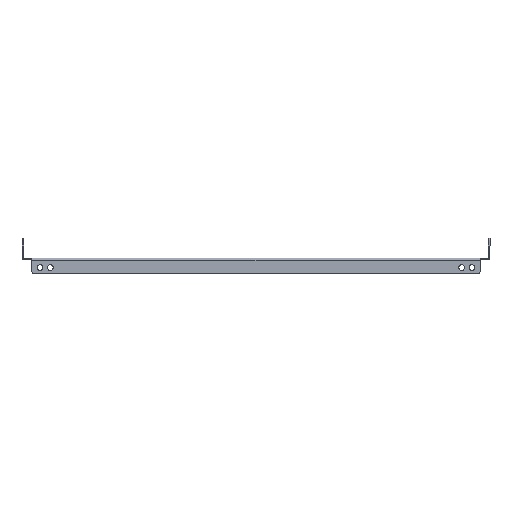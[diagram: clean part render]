
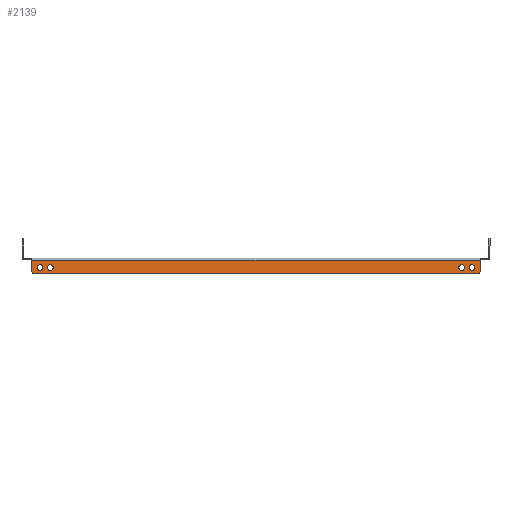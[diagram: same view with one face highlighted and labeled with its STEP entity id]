
A CAD part, left-side view. The second image highlights one B-rep face of the part: STEP entity #2139.
In plain terms, the highlighted planar face has unit normal (-1, 0, 0).
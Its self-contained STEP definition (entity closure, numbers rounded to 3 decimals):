
#9 = ORIENTED_EDGE ( 'NONE', *, *, #570, .F. ) ;
#19 = CARTESIAN_POINT ( 'NONE',  ( -150., -272.5, -17. ) ) ;
#38 = VERTEX_POINT ( 'NONE', #2614 ) ;
#49 = DIRECTION ( 'NONE',  ( -1., 0., 0. ) ) ;
#61 = AXIS2_PLACEMENT_3D ( 'NONE', #1537, #171, #535 ) ;
#106 = EDGE_CURVE ( 'NONE', #1857, #3036, #494, .T. ) ;
#114 = CARTESIAN_POINT ( 'NONE',  ( -150., -250., -13. ) ) ;
#171 = DIRECTION ( 'NONE',  ( -1., 0., 0. ) ) ;
#193 = ORIENTED_EDGE ( 'NONE', *, *, #344, .F. ) ;
#237 = CIRCLE ( 'NONE', #2675, 3.5 ) ;
#290 = ORIENTED_EDGE ( 'NONE', *, *, #1304, .F. ) ;
#295 = DIRECTION ( 'NONE',  ( 0., 0., 1. ) ) ;
#305 = EDGE_LOOP ( 'NONE', ( #3232, #9 ) ) ;
#329 = CIRCLE ( 'NONE', #808, 3.5 ) ;
#344 = EDGE_CURVE ( 'NONE', #3036, #1857, #3708, .T. ) ;
#378 = EDGE_CURVE ( 'NONE', #856, #4183, #974, .T. ) ;
#405 = ORIENTED_EDGE ( 'NONE', *, *, #3630, .T. ) ;
#441 = ORIENTED_EDGE ( 'NONE', *, *, #3990, .F. ) ;
#465 = DIRECTION ( 'NONE',  ( 0., 0., -1. ) ) ;
#494 = CIRCLE ( 'NONE', #2949, 3.5 ) ;
#535 = DIRECTION ( 'NONE',  ( 0., 0., -1. ) ) ;
#536 = EDGE_CURVE ( 'NONE', #2159, #2441, #237, .T. ) ;
#541 = AXIS2_PLACEMENT_3D ( 'NONE', #3235, #3588, #295 ) ;
#570 = EDGE_CURVE ( 'NONE', #668, #3304, #2550, .T. ) ;
#602 = LINE ( 'NONE', #862, #1644 ) ;
#661 = VECTOR ( 'NONE', #1287, 1000. ) ;
#668 = VERTEX_POINT ( 'NONE', #114 ) ;
#707 = EDGE_CURVE ( 'NONE', #3510, #3498, #3800, .T. ) ;
#808 = AXIS2_PLACEMENT_3D ( 'NONE', #847, #2828, #826 ) ;
#826 = DIRECTION ( 'NONE',  ( 0., 0., 1. ) ) ;
#847 = CARTESIAN_POINT ( 'NONE',  ( -150., 250., -9.5 ) ) ;
#856 = VERTEX_POINT ( 'NONE', #868 ) ;
#862 = CARTESIAN_POINT ( 'NONE',  ( -150., 272.5, -0.6 ) ) ;
#868 = CARTESIAN_POINT ( 'NONE',  ( -150., -269.5, -17. ) ) ;
#971 = VECTOR ( 'NONE', #2932, 1000. ) ;
#974 = CIRCLE ( 'NONE', #2027, 3. ) ;
#1108 = ORIENTED_EDGE ( 'NONE', *, *, #378, .T. ) ;
#1146 = VECTOR ( 'NONE', #3148, 1000. ) ;
#1201 = EDGE_CURVE ( 'NONE', #38, #3498, #602, .T. ) ;
#1224 = EDGE_CURVE ( 'NONE', #856, #2060, #4292, .T. ) ;
#1246 = FACE_BOUND ( 'NONE', #2160, .T. ) ;
#1274 = CARTESIAN_POINT ( 'NONE',  ( -150., -269.5, -14. ) ) ;
#1287 = DIRECTION ( 'NONE',  ( 0., 1., 0. ) ) ;
#1304 = EDGE_CURVE ( 'NONE', #3726, #1677, #1364, .T. ) ;
#1364 = CIRCLE ( 'NONE', #1921, 3.5 ) ;
#1415 = ORIENTED_EDGE ( 'NONE', *, *, #2057, .F. ) ;
#1502 = CARTESIAN_POINT ( 'NONE',  ( -150., -262.5, -13. ) ) ;
#1537 = CARTESIAN_POINT ( 'NONE',  ( -150., -250., -9.5 ) ) ;
#1563 = ORIENTED_EDGE ( 'NONE', *, *, #1201, .T. ) ;
#1634 = FACE_BOUND ( 'NONE', #3776, .T. ) ;
#1638 = CARTESIAN_POINT ( 'NONE',  ( -150., 250., -6. ) ) ;
#1644 = VECTOR ( 'NONE', #1940, 1000. ) ;
#1677 = VERTEX_POINT ( 'NONE', #1638 ) ;
#1801 = DIRECTION ( 'NONE',  ( 0., 0., 1. ) ) ;
#1825 = AXIS2_PLACEMENT_3D ( 'NONE', #2786, #3432, #1801 ) ;
#1857 = VERTEX_POINT ( 'NONE', #4107 ) ;
#1921 = AXIS2_PLACEMENT_3D ( 'NONE', #2556, #3896, #3558 ) ;
#1940 = DIRECTION ( 'NONE',  ( 0., 1., 0. ) ) ;
#1993 = CARTESIAN_POINT ( 'NONE',  ( -150., -250., -9.5 ) ) ;
#2013 = ORIENTED_EDGE ( 'NONE', *, *, #536, .F. ) ;
#2020 = DIRECTION ( 'NONE',  ( -1., 0., 0. ) ) ;
#2027 = AXIS2_PLACEMENT_3D ( 'NONE', #1274, #2567, #4326 ) ;
#2057 = EDGE_CURVE ( 'NONE', #1677, #3726, #329, .T. ) ;
#2060 = VERTEX_POINT ( 'NONE', #4168 ) ;
#2082 = DIRECTION ( 'NONE',  ( 0., 0., -1. ) ) ;
#2139 = ADVANCED_FACE ( 'NONE', ( #1634, #3564, #3904, #1246, #2650 ), #2238, .T. ) ;
#2159 = VERTEX_POINT ( 'NONE', #4251 ) ;
#2160 = EDGE_LOOP ( 'NONE', ( #2630, #193 ) ) ;
#2194 = ORIENTED_EDGE ( 'NONE', *, *, #707, .F. ) ;
#2238 = PLANE ( 'NONE',  #541 ) ;
#2339 = CARTESIAN_POINT ( 'NONE',  ( -150., 250., -13. ) ) ;
#2351 = CARTESIAN_POINT ( 'NONE',  ( -150., -262.5, -9.5 ) ) ;
#2398 = DIRECTION ( 'NONE',  ( -1., 0., 0. ) ) ;
#2441 = VERTEX_POINT ( 'NONE', #1502 ) ;
#2482 = CARTESIAN_POINT ( 'NONE',  ( -150., 262.5, -13. ) ) ;
#2511 = DIRECTION ( 'NONE',  ( -1., 0., 0. ) ) ;
#2528 = CARTESIAN_POINT ( 'NONE',  ( -150., -262.5, -9.5 ) ) ;
#2550 = CIRCLE ( 'NONE', #4301, 3.5 ) ;
#2556 = CARTESIAN_POINT ( 'NONE',  ( -150., 250., -9.5 ) ) ;
#2567 = DIRECTION ( 'NONE',  ( -1., 0., 0. ) ) ;
#2614 = CARTESIAN_POINT ( 'NONE',  ( -150., -272.5, -0.6 ) ) ;
#2615 = EDGE_CURVE ( 'NONE', #3304, #668, #3632, .T. ) ;
#2630 = ORIENTED_EDGE ( 'NONE', *, *, #106, .F. ) ;
#2650 = FACE_OUTER_BOUND ( 'NONE', #3114, .T. ) ;
#2662 = DIRECTION ( 'NONE',  ( -1., 0., 0. ) ) ;
#2675 = AXIS2_PLACEMENT_3D ( 'NONE', #2351, #49, #3341 ) ;
#2721 = CARTESIAN_POINT ( 'NONE',  ( -150., 262.5, -9.5 ) ) ;
#2756 = CARTESIAN_POINT ( 'NONE',  ( -150., -272.5, -14. ) ) ;
#2786 = CARTESIAN_POINT ( 'NONE',  ( -150., 262.5, -9.5 ) ) ;
#2828 = DIRECTION ( 'NONE',  ( -1., 0., 0. ) ) ;
#2885 = CARTESIAN_POINT ( 'NONE',  ( -150., 272.5, -14. ) ) ;
#2932 = DIRECTION ( 'NONE',  ( 0., 0., -1. ) ) ;
#2949 = AXIS2_PLACEMENT_3D ( 'NONE', #2721, #2020, #3028 ) ;
#2950 = DIRECTION ( 'NONE',  ( 0., 0., 1. ) ) ;
#3028 = DIRECTION ( 'NONE',  ( 0., 0., 1. ) ) ;
#3036 = VERTEX_POINT ( 'NONE', #2482 ) ;
#3086 = ORIENTED_EDGE ( 'NONE', *, *, #3285, .F. ) ;
#3093 = CIRCLE ( 'NONE', #3654, 3. ) ;
#3114 = EDGE_LOOP ( 'NONE', ( #3790, #1108, #3086, #1563, #2194, #405 ) ) ;
#3148 = DIRECTION ( 'NONE',  ( 0., 0., 1. ) ) ;
#3170 = AXIS2_PLACEMENT_3D ( 'NONE', #2528, #2511, #465 ) ;
#3232 = ORIENTED_EDGE ( 'NONE', *, *, #2615, .F. ) ;
#3235 = CARTESIAN_POINT ( 'NONE',  ( -150., 272.5, 0. ) ) ;
#3266 = CARTESIAN_POINT ( 'NONE',  ( -150., 269.5, -14. ) ) ;
#3285 = EDGE_CURVE ( 'NONE', #38, #4183, #4335, .T. ) ;
#3304 = VERTEX_POINT ( 'NONE', #3332 ) ;
#3332 = CARTESIAN_POINT ( 'NONE',  ( -150., -250., -6. ) ) ;
#3341 = DIRECTION ( 'NONE',  ( 0., 0., -1. ) ) ;
#3432 = DIRECTION ( 'NONE',  ( -1., 0., 0. ) ) ;
#3441 = CIRCLE ( 'NONE', #3170, 3.5 ) ;
#3462 = CARTESIAN_POINT ( 'NONE',  ( -150., 272.5, -0.6 ) ) ;
#3469 = CARTESIAN_POINT ( 'NONE',  ( -150., 272.5, 0. ) ) ;
#3498 = VERTEX_POINT ( 'NONE', #3462 ) ;
#3510 = VERTEX_POINT ( 'NONE', #2885 ) ;
#3558 = DIRECTION ( 'NONE',  ( 0., 0., 1. ) ) ;
#3564 = FACE_BOUND ( 'NONE', #305, .T. ) ;
#3588 = DIRECTION ( 'NONE',  ( -1., 0., 0. ) ) ;
#3618 = EDGE_LOOP ( 'NONE', ( #1415, #290 ) ) ;
#3630 = EDGE_CURVE ( 'NONE', #3510, #2060, #3093, .T. ) ;
#3632 = CIRCLE ( 'NONE', #61, 3.5 ) ;
#3654 = AXIS2_PLACEMENT_3D ( 'NONE', #3266, #2662, #2950 ) ;
#3708 = CIRCLE ( 'NONE', #1825, 3.5 ) ;
#3726 = VERTEX_POINT ( 'NONE', #2339 ) ;
#3776 = EDGE_LOOP ( 'NONE', ( #2013, #441 ) ) ;
#3790 = ORIENTED_EDGE ( 'NONE', *, *, #1224, .F. ) ;
#3800 = LINE ( 'NONE', #3469, #1146 ) ;
#3874 = CARTESIAN_POINT ( 'NONE',  ( -150., 272.5, -17. ) ) ;
#3896 = DIRECTION ( 'NONE',  ( -1., 0., 0. ) ) ;
#3904 = FACE_BOUND ( 'NONE', #3618, .T. ) ;
#3990 = EDGE_CURVE ( 'NONE', #2441, #2159, #3441, .T. ) ;
#4107 = CARTESIAN_POINT ( 'NONE',  ( -150., 262.5, -6. ) ) ;
#4168 = CARTESIAN_POINT ( 'NONE',  ( -150., 269.5, -17. ) ) ;
#4183 = VERTEX_POINT ( 'NONE', #2756 ) ;
#4251 = CARTESIAN_POINT ( 'NONE',  ( -150., -262.5, -6. ) ) ;
#4292 = LINE ( 'NONE', #3874, #661 ) ;
#4301 = AXIS2_PLACEMENT_3D ( 'NONE', #1993, #2398, #2082 ) ;
#4326 = DIRECTION ( 'NONE',  ( 0., 0., 1. ) ) ;
#4335 = LINE ( 'NONE', #19, #971 ) ;
